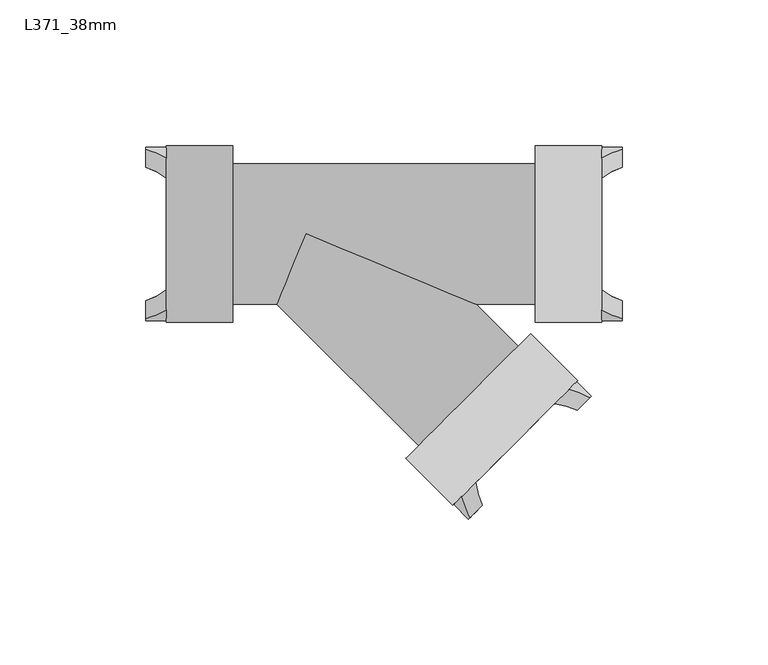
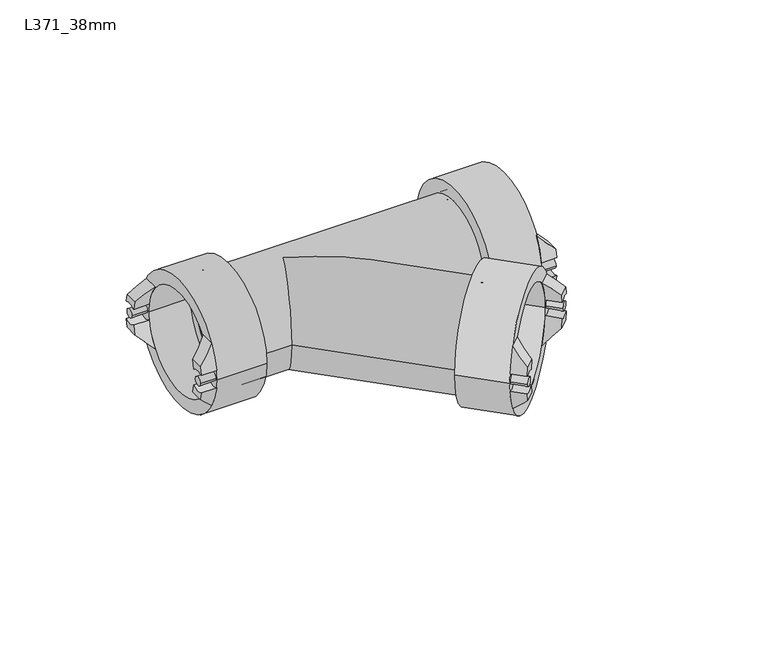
"""IFC4 building model written with IfcOpenShell, lengths in millimetres: pipe fitting geometry, Durapipe_PipeFitting_VulcatheneEnfusion_SingleWye_L37 : L371_38mm."""

from ifc_helpers import new_model, si_unit, point, frame, frame_2d, origin, place, context, project, spatial, polyline, circle_curve, ellipse_curve, trimmed, segment, composite_curve, outline, extrude, source, transform, mapped, element, save
from ifc_brep_helpers import plane_surface, cylinder_surface, revolved_surface, advanced_brep


def l371_38mm_ee0c1067(model_context):
    return source(origin(), model_context, "Body", "SolidModel", [
        advanced_brep(
        [(93.688139, -59.7540325, 5.8647205), (97.7893583, -55.6528132, 6.3008343), (97.2511418, -56.1910297, 9.9669854), (92.9606424, -60.4815291, 9.9669854), (90.1534052, -53.24785, 17.0269854), (92.7689002, -50.6323551, 6.3008343), (88.6676808, -54.7335744, 5.8647205), (85.2189485, -58.1823067, 17.0269854)],
        [
            (0, 1, circle_curve(frame((95.9543902, -57.4877813, 2.0269854), z_axis=(-0.7071067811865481, 0.7071067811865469, 0.0), x_axis=(-0.7071067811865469, -0.7071067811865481, 0.0)), 5.0)),
            (1, 2, circle_curve(frame((76.7210858, -76.7210858, 2.0269854), z_axis=(0.7071067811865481, -0.7071067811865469, 0.0), x_axis=(-0.7071067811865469, -0.7071067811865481, 0.0)), 30.1)),
            (2, 3),
            (3, 0, circle_curve(frame((76.7210858, -76.7210858, 2.0269854), z_axis=(-0.7071067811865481, 0.7071067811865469, 0.0), x_axis=(-0.7071067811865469, -0.7071067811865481, 0.0)), 24.3)),
            (4, 5, circle_curve(frame((71.7006276, -71.7006276, 2.0269854), z_axis=(-0.7071067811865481, 0.7071067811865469, 0.0), x_axis=(-0.7071067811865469, -0.7071067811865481, 0.0)), 30.1)),
            (5, 6, circle_curve(frame((90.9339321, -52.4673232, 2.0269854), z_axis=(0.7071067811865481, -0.7071067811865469, 0.0), x_axis=(-0.7071067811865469, -0.7071067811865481, 0.0)), 5.0)),
            (6, 7, circle_curve(frame((71.7006276, -71.7006276, 2.0269854), z_axis=(0.7071067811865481, -0.7071067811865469, 0.0), x_axis=(-0.7071067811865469, -0.7071067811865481, 0.0)), 24.3)),
            (7, 4),
            (6, 0),
            (3, 7, ellipse_curve(frame((82.3673234, -82.3673234, 2.0269854), z_axis=(0.4985855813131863, -0.4985855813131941, 0.7091014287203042), x_axis=(-0.5014104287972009, 0.5014104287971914, 0.7051064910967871)), 34.4628794, 24.3)),
            (4, 2, ellipse_curve(frame((82.3673234, -82.3673234, 2.0269854), z_axis=(-0.4985855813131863, 0.4985855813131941, -0.7091014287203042), x_axis=(0.5014104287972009, -0.5014104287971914, -0.7051064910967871)), 42.6885873, 30.1)),
            (1, 5),
        ],
        [
            plane_surface(frame((95.1738633, -58.2683082, 17.0269854), z_axis=(0.7071067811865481, -0.7071067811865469, 0.0), x_axis=(-0.7071067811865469, -0.7071067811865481, 0.0))),
            plane_surface(frame((90.1534052, -53.24785, 17.0269854), z_axis=(-0.7071067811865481, 0.7071067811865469, 0.0), x_axis=(0.7071067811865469, 0.7071067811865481, 0.0))),
            revolved_surface(polyline([(47.90458147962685, -82.26997104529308, 2.0269854), (82.464675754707, -116.83006532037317, 2.0269854)]), (71.7006276, -71.7006276, 2.0269854), (-0.7071067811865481, 0.7071067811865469, 0.0)),
            cylinder_surface(frame((71.7006276, -71.7006276, 2.0269854), z_axis=(0.7071067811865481, -0.7071067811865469, 0.0), x_axis=(-0.7071067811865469, -0.7071067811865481, 0.0)), 30.1),
            revolved_surface(polyline([(92.41885629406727, -61.02331520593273, 2.0269854), (87.39839814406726, -56.002857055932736, 2.0269854)]), (90.9339321, -52.4673232, 2.0269854), (0.7071067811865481, -0.7071067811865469, 0.0)),
            plane_surface(frame((50.4167135, -92.9845417, 17.0269854), z_axis=(0.4985855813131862, -0.49858558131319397, 0.7091014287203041), x_axis=(0.7071067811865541, 0.7071067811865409, 0.0))),
        ],
        [
            (0, [[1, 2, 3, 4]]),
            (1, [[5, 6, 7, 8]]),
            (2, [[-7, 9, -4, 10]]),
            (3, [[-5, 11, -2, 12]]),
            (4, [[-1, -9, -6, -12]]),
            (5, [[-3, -11, -8, -10]]),
        ],
    ),
        advanced_brep(
        [(97.7893583, -55.6528132, -2.2468634), (93.688139, -59.7540325, -1.8107497), (92.9606424, -60.4815291, -5.9130146), (97.2511418, -56.1910297, -5.9130146), (92.7689002, -50.6323551, -2.2468634), (90.1534052, -53.24785, -12.9730146), (85.2189485, -58.1823067, -12.9730146), (88.6676808, -54.7335744, -1.8107497)],
        [
            (0, 1, circle_curve(frame((95.9543902, -57.4877813, 2.0269854), z_axis=(-0.7071067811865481, 0.7071067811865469, 0.0), x_axis=(-0.7071067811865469, -0.7071067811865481, 0.0)), 5.0)),
            (1, 2, circle_curve(frame((76.7210858, -76.7210858, 2.0269854), z_axis=(-0.7071067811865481, 0.7071067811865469, 0.0), x_axis=(-0.7071067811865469, -0.7071067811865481, 0.0)), 24.3)),
            (2, 3),
            (3, 0, circle_curve(frame((76.7210858, -76.7210858, 2.0269854), z_axis=(0.7071067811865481, -0.7071067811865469, 0.0), x_axis=(-0.7071067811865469, -0.7071067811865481, 0.0)), 30.1)),
            (4, 5, circle_curve(frame((71.7006276, -71.7006276, 2.0269854), z_axis=(-0.7071067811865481, 0.7071067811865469, 0.0), x_axis=(-0.7071067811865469, -0.7071067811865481, 0.0)), 30.1)),
            (5, 6),
            (6, 7, circle_curve(frame((71.7006276, -71.7006276, 2.0269854), z_axis=(0.7071067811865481, -0.7071067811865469, 0.0), x_axis=(-0.7071067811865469, -0.7071067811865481, 0.0)), 24.3)),
            (7, 4, circle_curve(frame((90.9339321, -52.4673232, 2.0269854), z_axis=(0.7071067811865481, -0.7071067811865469, 0.0), x_axis=(-0.7071067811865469, -0.7071067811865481, 0.0)), 5.0)),
            (6, 2, ellipse_curve(frame((82.3673234, -82.3673234, 2.0269854), z_axis=(0.49858558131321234, -0.4985855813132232, -0.7091014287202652), x_axis=(-0.5014104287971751, 0.5014104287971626, -0.7051064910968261)), 34.4628794, 24.3)),
            (1, 7),
            (4, 0),
            (3, 5, ellipse_curve(frame((82.3673234, -82.3673234, 2.0269854), z_axis=(-0.49858558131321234, 0.4985855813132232, 0.7091014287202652), x_axis=(0.5014104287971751, -0.5014104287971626, 0.7051064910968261)), 42.6885873, 30.1)),
        ],
        [
            plane_surface(frame((95.1738633, -58.2683082, 17.0269854), z_axis=(0.7071067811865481, -0.7071067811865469, 0.0), x_axis=(-0.7071067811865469, -0.7071067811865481, 0.0))),
            plane_surface(frame((90.1534052, -53.24785, 17.0269854), z_axis=(-0.7071067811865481, 0.7071067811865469, 0.0), x_axis=(0.7071067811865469, 0.7071067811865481, 0.0))),
            revolved_surface(polyline([(47.904581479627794, -82.26997104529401, 2.0269854), (82.46467575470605, -116.83006532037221, 2.0269854)]), (71.7006276, -71.7006276, 2.0269854), (-0.7071067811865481, 0.7071067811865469, 0.0)),
            cylinder_surface(frame((71.7006276, -71.7006276, 2.0269854), z_axis=(0.7071067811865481, -0.7071067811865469, 0.0), x_axis=(-0.7071067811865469, -0.7071067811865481, 0.0)), 30.1),
            revolved_surface(polyline([(92.41885629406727, -61.02331520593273, 2.0269854), (87.39839814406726, -56.002857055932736, 2.0269854)]), (90.9339321, -52.4673232, 2.0269854), (0.7071067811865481, -0.7071067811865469, 0.0)),
            plane_surface(frame((55.4371716, -98.0049999, -5.9130146), z_axis=(0.49858558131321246, -0.49858558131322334, -0.7091014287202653), x_axis=(0.7071067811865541, 0.7071067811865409, 0.0))),
        ],
        [
            (0, [[1, 2, 3, 4]]),
            (1, [[5, 6, 7, 8]]),
            (2, [[-7, 9, -2, 10]]),
            (3, [[-5, 11, -4, 12]]),
            (4, [[-1, -11, -8, -10]]),
            (5, [[-3, -9, -6, -12]]),
        ],
    ),
        advanced_brep(
        [(55.6528132, -97.7893583, 6.3008343), (59.7540325, -93.688139, 5.8647205), (60.4815291, -92.9606424, 9.9669854), (56.1910297, -97.2511418, 9.9669854), (50.6323551, -92.7689002, 6.3008343), (53.24785, -90.1534052, 17.0269854), (58.1823067, -85.2189485, 17.0269854), (54.7335744, -88.6676808, 5.8647205)],
        [
            (0, 1, circle_curve(frame((57.4877813, -95.9543902, 2.0269854), z_axis=(-0.7071067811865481, 0.7071067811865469, 0.0), x_axis=(-0.7071067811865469, -0.7071067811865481, 0.0)), 5.0)),
            (1, 2, circle_curve(frame((76.7210858, -76.7210858, 2.0269854), z_axis=(-0.7071067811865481, 0.7071067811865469, 0.0), x_axis=(-0.7071067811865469, -0.7071067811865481, 0.0)), 24.3)),
            (2, 3),
            (3, 0, circle_curve(frame((76.7210858, -76.7210858, 2.0269854), z_axis=(0.7071067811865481, -0.7071067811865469, 0.0), x_axis=(-0.7071067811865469, -0.7071067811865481, 0.0)), 30.1)),
            (4, 5, circle_curve(frame((71.7006276, -71.7006276, 2.0269854), z_axis=(-0.7071067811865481, 0.7071067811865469, 0.0), x_axis=(-0.7071067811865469, -0.7071067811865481, 0.0)), 30.1)),
            (5, 6),
            (6, 7, circle_curve(frame((71.7006276, -71.7006276, 2.0269854), z_axis=(0.7071067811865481, -0.7071067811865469, 0.0), x_axis=(-0.7071067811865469, -0.7071067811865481, 0.0)), 24.3)),
            (7, 4, circle_curve(frame((52.4673232, -90.9339321, 2.0269854), z_axis=(0.7071067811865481, -0.7071067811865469, 0.0), x_axis=(-0.7071067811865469, -0.7071067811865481, 0.0)), 5.0)),
            (6, 2, ellipse_curve(frame((82.3673234, -82.3673234, 2.0269854), z_axis=(0.4985855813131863, -0.4985855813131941, 0.7091014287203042), x_axis=(-0.5014104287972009, 0.5014104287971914, 0.7051064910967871)), 34.4628794, 24.3)),
            (1, 7),
            (4, 0),
            (3, 5, ellipse_curve(frame((82.3673234, -82.3673234, 2.0269854), z_axis=(-0.4985855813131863, 0.4985855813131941, -0.7091014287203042), x_axis=(0.5014104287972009, -0.5014104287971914, -0.7051064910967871)), 42.6885873, 30.1)),
        ],
        [
            plane_surface(frame((95.1738633, -58.2683082, 17.0269854), z_axis=(0.7071067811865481, -0.7071067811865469, 0.0), x_axis=(-0.7071067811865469, -0.7071067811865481, 0.0))),
            plane_surface(frame((90.1534052, -53.24785, 17.0269854), z_axis=(-0.7071067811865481, 0.7071067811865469, 0.0), x_axis=(0.7071067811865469, 0.7071067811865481, 0.0))),
            revolved_surface(polyline([(47.90458147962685, -82.26997104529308, 2.0269854), (82.464675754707, -116.83006532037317, 2.0269854)]), (71.7006276, -71.7006276, 2.0269854), (-0.7071067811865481, 0.7071067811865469, 0.0)),
            cylinder_surface(frame((71.7006276, -71.7006276, 2.0269854), z_axis=(0.7071067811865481, -0.7071067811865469, 0.0), x_axis=(-0.7071067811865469, -0.7071067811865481, 0.0)), 30.1),
            revolved_surface(polyline([(53.95224739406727, -99.48992410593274, 2.0269854), (48.93178924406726, -94.46946595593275, 2.0269854)]), (52.4673232, -90.9339321, 2.0269854), (0.7071067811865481, -0.7071067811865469, 0.0)),
            plane_surface(frame((50.4167135, -92.9845417, 17.0269854), z_axis=(0.4985855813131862, -0.49858558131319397, 0.7091014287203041), x_axis=(0.7071067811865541, 0.7071067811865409, 0.0))),
        ],
        [
            (0, [[1, 2, 3, 4]]),
            (1, [[5, 6, 7, 8]]),
            (2, [[-7, 9, -2, 10]]),
            (3, [[-5, 11, -4, 12]]),
            (4, [[-1, -11, -8, -10]]),
            (5, [[-3, -9, -6, -12]]),
        ],
    ),
        advanced_brep(
        [(59.7540325, -93.688139, -1.8107497), (55.6528132, -97.7893583, -2.2468634), (56.1910297, -97.2511418, -5.9130146), (60.4815291, -92.9606424, -5.9130146), (53.24785, -90.1534052, -12.9730146), (50.6323551, -92.7689002, -2.2468634), (54.7335744, -88.6676808, -1.8107497), (58.1823067, -85.2189485, -12.9730146)],
        [
            (0, 1, circle_curve(frame((57.4877813, -95.9543902, 2.0269854), z_axis=(-0.7071067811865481, 0.7071067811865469, 0.0), x_axis=(-0.7071067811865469, -0.7071067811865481, 0.0)), 5.0)),
            (1, 2, circle_curve(frame((76.7210858, -76.7210858, 2.0269854), z_axis=(0.7071067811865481, -0.7071067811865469, 0.0), x_axis=(-0.7071067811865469, -0.7071067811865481, 0.0)), 30.1)),
            (2, 3),
            (3, 0, circle_curve(frame((76.7210858, -76.7210858, 2.0269854), z_axis=(-0.7071067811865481, 0.7071067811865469, 0.0), x_axis=(-0.7071067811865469, -0.7071067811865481, 0.0)), 24.3)),
            (4, 5, circle_curve(frame((71.7006276, -71.7006276, 2.0269854), z_axis=(-0.7071067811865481, 0.7071067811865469, 0.0), x_axis=(-0.7071067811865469, -0.7071067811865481, 0.0)), 30.1)),
            (5, 6, circle_curve(frame((52.4673232, -90.9339321, 2.0269854), z_axis=(0.7071067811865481, -0.7071067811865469, 0.0), x_axis=(-0.7071067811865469, -0.7071067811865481, 0.0)), 5.0)),
            (6, 7, circle_curve(frame((71.7006276, -71.7006276, 2.0269854), z_axis=(0.7071067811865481, -0.7071067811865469, 0.0), x_axis=(-0.7071067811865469, -0.7071067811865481, 0.0)), 24.3)),
            (7, 4),
            (6, 0),
            (3, 7, ellipse_curve(frame((82.3673234, -82.3673234, 2.0269854), z_axis=(0.49858558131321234, -0.4985855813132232, -0.7091014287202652), x_axis=(-0.5014104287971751, 0.5014104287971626, -0.7051064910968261)), 34.4628794, 24.3)),
            (4, 2, ellipse_curve(frame((82.3673234, -82.3673234, 2.0269854), z_axis=(-0.49858558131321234, 0.4985855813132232, 0.7091014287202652), x_axis=(0.5014104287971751, -0.5014104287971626, 0.7051064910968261)), 42.6885873, 30.1)),
            (1, 5),
        ],
        [
            plane_surface(frame((95.1738633, -58.2683082, 17.0269854), z_axis=(0.7071067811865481, -0.7071067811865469, 0.0), x_axis=(-0.7071067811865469, -0.7071067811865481, 0.0))),
            plane_surface(frame((90.1534052, -53.24785, 17.0269854), z_axis=(-0.7071067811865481, 0.7071067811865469, 0.0), x_axis=(0.7071067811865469, 0.7071067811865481, 0.0))),
            revolved_surface(polyline([(47.904581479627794, -82.26997104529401, 2.0269854), (82.46467575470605, -116.83006532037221, 2.0269854)]), (71.7006276, -71.7006276, 2.0269854), (-0.7071067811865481, 0.7071067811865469, 0.0)),
            cylinder_surface(frame((71.7006276, -71.7006276, 2.0269854), z_axis=(0.7071067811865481, -0.7071067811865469, 0.0), x_axis=(-0.7071067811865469, -0.7071067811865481, 0.0)), 30.1),
            revolved_surface(polyline([(53.95224739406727, -99.48992410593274, 2.0269854), (48.93178924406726, -94.46946595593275, 2.0269854)]), (52.4673232, -90.9339321, 2.0269854), (0.7071067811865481, -0.7071067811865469, 0.0)),
            plane_surface(frame((55.4371716, -98.0049999, -5.9130146), z_axis=(0.49858558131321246, -0.49858558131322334, -0.7091014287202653), x_axis=(0.7071067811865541, 0.7071067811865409, 0.0))),
        ],
        [
            (0, [[1, 2, 3, 4]]),
            (1, [[5, 6, 7, 8]]),
            (2, [[-7, 9, -4, 10]]),
            (3, [[-5, 11, -2, 12]]),
            (4, [[-1, -9, -6, -12]]),
            (5, [[-3, -11, -8, -10]]),
        ],
    ),
        extrude(outline(composite_curve([segment(trimmed(circle_curve(frame_2d((0.0, -2.0000001)), 2.0), [point((0.0, -4.0000001))], [point((0.0, 0.0))], False, "CARTESIAN"), True, "CONTINUOUS"), segment(trimmed(circle_curve(frame_2d((0.0, -2.0000001)), 2.0), [point((0.0, 0.0))], [point((0.0, -4.0000001))], False, "CARTESIAN"), True, "CONTINUOUS")], self_intersect=False)), frame((94.5401766, -58.9019949, 2.0269854), z_axis=(-0.7071067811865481, 0.7071067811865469, 0.0), x_axis=(0.0, 0.0, -1.0)), (0.0, 0.0, 1.0), 7.1),
        extrude(outline(composite_curve([segment(trimmed(circle_curve(frame_2d((0.0, 52.4)), 2.0), [point((0.0, 50.3999999))], [point((0.0, 54.4))], False, "CARTESIAN"), True, "CONTINUOUS"), segment(trimmed(circle_curve(frame_2d((0.0, 52.4)), 2.0), [point((0.0, 54.4))], [point((0.0, 50.3999999))], False, "CARTESIAN"), True, "CONTINUOUS")], self_intersect=False)), frame((94.5401766, -58.9019949, 2.0269854), z_axis=(-0.7071067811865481, 0.7071067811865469, 0.0), x_axis=(0.0, 0.0, -1.0)), (0.0, 0.0, 1.0), 7.1),
        advanced_brep(
        [(72.4784451, -43.9113311, 2.0269854), (43.9113311, -72.4784451, 2.0269854), (41.1182593, -75.2715169, 2.0269854), (75.2715169, -41.1182593, 2.0269854), (69.86215, -41.295036, 2.0269854), (41.295036, -69.86215, 2.0269854), (76.9685731, -34.1886129, 2.0269854), (34.1886129, -76.9685731, 2.0269854), (93.0906077, -50.3106475, 2.0269854), (50.3106475, -93.0906077, 2.0269854), (88.7772564, -54.6239988, 2.0269854), (54.6239988, -88.7772564, 2.0269854)],
        [
            (0, 1, circle_curve(frame((58.1948881, -58.1948881, 2.0269854), z_axis=(-0.7071067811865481, 0.7071067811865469, 0.0), x_axis=(-0.7071067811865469, -0.7071067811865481, 0.0)), 20.2)),
            (1, 2),
            (2, 3, circle_curve(frame((58.1948881, -58.1948881, 2.0269854), z_axis=(0.7071067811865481, -0.7071067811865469, 0.0), x_axis=(-0.7071067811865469, -0.7071067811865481, 0.0)), 24.15)),
            (3, 0),
            (1, 0, circle_curve(frame((58.1948881, -58.1948881, 2.0269854), z_axis=(-0.7071067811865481, 0.7071067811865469, 0.0), x_axis=(-0.7071067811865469, -0.7071067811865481, 0.0)), 20.2)),
            (3, 2, circle_curve(frame((58.1948881, -58.1948881, 2.0269854), z_axis=(0.7071067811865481, -0.7071067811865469, 0.0), x_axis=(-0.7071067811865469, -0.7071067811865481, 0.0)), 24.15)),
            (4, 5, circle_curve(frame((55.578593, -55.578593, 2.0269854), z_axis=(-0.7071067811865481, 0.7071067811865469, 0.0), x_axis=(-0.7071067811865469, -0.7071067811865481, 0.0)), 20.2)),
            (5, 1),
            (0, 4),
            (5, 4, circle_curve(frame((55.578593, -55.578593, 2.0269854), z_axis=(-0.7071067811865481, 0.7071067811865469, 0.0), x_axis=(-0.7071067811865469, -0.7071067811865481, 0.0)), 20.2)),
            (6, 7, circle_curve(frame((55.578593, -55.578593, 2.0269854), z_axis=(-0.7071067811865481, 0.7071067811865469, 0.0), x_axis=(-0.7071067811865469, -0.7071067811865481, 0.0)), 30.25)),
            (7, 5),
            (4, 6),
            (7, 6, circle_curve(frame((55.578593, -55.578593, 2.0269854), z_axis=(-0.7071067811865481, 0.7071067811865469, 0.0), x_axis=(-0.7071067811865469, -0.7071067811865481, 0.0)), 30.25)),
            (8, 9, circle_curve(frame((71.7006276, -71.7006276, 2.0269854), z_axis=(-0.7071067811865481, 0.7071067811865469, 0.0), x_axis=(-0.7071067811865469, -0.7071067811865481, 0.0)), 30.25)),
            (9, 7),
            (6, 8),
            (9, 8, circle_curve(frame((71.7006276, -71.7006276, 2.0269854), z_axis=(-0.7071067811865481, 0.7071067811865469, 0.0), x_axis=(-0.7071067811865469, -0.7071067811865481, 0.0)), 30.25)),
            (10, 11, circle_curve(frame((71.7006276, -71.7006276, 2.0269854), z_axis=(-0.7071067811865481, 0.7071067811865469, 0.0), x_axis=(-0.7071067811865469, -0.7071067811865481, 0.0)), 24.15)),
            (11, 9),
            (8, 10),
            (11, 10, circle_curve(frame((71.7006276, -71.7006276, 2.0269854), z_axis=(-0.7071067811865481, 0.7071067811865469, 0.0), x_axis=(-0.7071067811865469, -0.7071067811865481, 0.0)), 24.15)),
            (2, 11),
            (10, 3),
        ],
        [
            plane_surface(frame((58.1948881, -58.1948881, 2.0269854), z_axis=(0.7071067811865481, -0.7071067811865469, 0.0), x_axis=(-0.7071067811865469, -0.7071067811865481, 0.0))),
            revolved_surface(polyline([(43.911331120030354, -72.47844507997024, 2.0269854), (41.29503602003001, -69.8621499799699, 2.0269854)]), (1849.3547889, -1849.3547889, 2.0269854), (0.7071067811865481, -0.7071067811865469, 0.0)),
            plane_surface(frame((55.578593, -55.578593, 2.0269854), z_axis=(-0.7071067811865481, 0.7071067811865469, 0.0), x_axis=(-0.7071067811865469, -0.7071067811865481, 0.0))),
            cylinder_surface(frame((1849.3547889, -1849.3547889, 2.0269854), z_axis=(0.7071067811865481, -0.7071067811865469, 0.0), x_axis=(-0.7071067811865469, -0.7071067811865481, 0.0)), 30.25),
            plane_surface(frame((71.7006276, -71.7006276, 2.0269854), z_axis=(0.7071067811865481, -0.7071067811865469, 0.0), x_axis=(-0.7071067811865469, -0.7071067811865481, 0.0))),
            revolved_surface(polyline([(54.62399883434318, -88.77725636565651, 2.0269854), (41.11825933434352, -75.27151686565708, 2.0269854)]), (1849.3547889, -1849.3547889, 2.0269854), (0.7071067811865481, -0.7071067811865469, 0.0)),
        ],
        [
            (0, [[1, 2, 3, 4]]),
            (0, [[5, -4, 6, -2]]),
            (1, [[7, 8, -1, 9]]),
            (1, [[10, -9, -5, -8]]),
            (2, [[11, 12, -7, 13]]),
            (2, [[14, -13, -10, -12]]),
            (3, [[15, 16, -11, 17]]),
            (3, [[18, -17, -14, -16]]),
            (4, [[19, 20, -15, 21]]),
            (4, [[22, -21, -18, -20]]),
            (5, [[-3, 23, -19, 24]]),
            (5, [[-6, -24, -22, -23]]),
        ],
    ),
        advanced_brep(
        [(-55.0, -23.9950368, 3.8377351), (-55.0, -29.7950368, 4.2738489), (-55.0, -29.0338837, 7.94), (-55.0, -22.9662013, 7.94), (-47.9, -26.0961683, 15.0), (-47.9, -29.7950368, 4.2738489), (-47.9, -23.9950368, 3.8377351), (-47.9, -19.1177928, 15.0)],
        [
            (0, 1, circle_curve(frame((-55.0, -27.2, 0.0), z_axis=(1.0, 0.0, 0.0), x_axis=(0.0, 1.0, 0.0)), 5.0)),
            (1, 2, circle_curve(frame((-55.0, 0.0, 0.0), z_axis=(-1.0, 0.0, 0.0), x_axis=(0.0, 1.0, 0.0)), 30.1)),
            (2, 3),
            (3, 0, circle_curve(frame((-55.0, 0.0, 0.0), z_axis=(1.0, 0.0, 0.0), x_axis=(0.0, 1.0, 0.0)), 24.3)),
            (4, 5, circle_curve(frame((-47.9, 0.0, 0.0), z_axis=(1.0, 0.0, 0.0), x_axis=(0.0, 1.0, 0.0)), 30.1)),
            (5, 6, circle_curve(frame((-47.9, -27.2, 0.0), z_axis=(-1.0, 0.0, 0.0), x_axis=(0.0, 1.0, 0.0)), 5.0)),
            (6, 7, circle_curve(frame((-47.9, 0.0, 0.0), z_axis=(-1.0, 0.0, 0.0), x_axis=(0.0, 1.0, 0.0)), 24.3)),
            (7, 4),
            (6, 0),
            (3, 7, ellipse_curve(frame((-62.9849858, 0.0, 0.0), z_axis=(-0.705106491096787, 0.0, 0.7091014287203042), x_axis=(0.7091014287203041, 0.0, 0.705106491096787)), 34.4628794, 24.3)),
            (4, 2, ellipse_curve(frame((-62.9849858, 0.0, 0.0), z_axis=(0.705106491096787, 0.0, -0.7091014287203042), x_axis=(-0.7091014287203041, 0.0, -0.705106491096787)), 42.6885873, 30.1)),
            (1, 5),
        ],
        [
            plane_surface(frame((-55.0, -26.0961683, 15.0), z_axis=(-1.0, 0.0, 0.0), x_axis=(0.0, 1.0, 0.0))),
            plane_surface(frame((-47.9, -26.0961683, 15.0), z_axis=(1.0, 0.0, 0.0), x_axis=(0.0, -1.0, 0.0))),
            revolved_surface(polyline([(-38.54730877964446, 24.3, 0.0), (-87.42266282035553, 24.3, 0.0)]), (-47.9, 0.0, 0.0), (1.0, 0.0, 0.0)),
            cylinder_surface(frame((-47.9, 0.0, 0.0), z_axis=(-1.0, 0.0, 0.0), x_axis=(0.0, 1.0, 0.0)), 30.1),
            revolved_surface(polyline([(-55.0, -22.2, 0.0), (-47.9, -22.2, 0.0)]), (-47.9, -27.2, 0.0), (-1.0, 0.0, 0.0)),
            plane_surface(frame((-47.9, 30.1, 15.0), z_axis=(-0.705106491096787, 0.0, 0.7091014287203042), x_axis=(0.0, -1.0, 0.0))),
        ],
        [
            (0, [[1, 2, 3, 4]]),
            (1, [[5, 6, 7, 8]]),
            (2, [[-7, 9, -4, 10]]),
            (3, [[-5, 11, -2, 12]]),
            (4, [[-1, -9, -6, -12]]),
            (5, [[-3, -11, -8, -10]]),
        ],
    ),
        advanced_brep(
        [(-55.0, -29.7950368, -4.2738489), (-55.0, -23.9950368, -3.8377351), (-55.0, -22.9662013, -7.94), (-55.0, -29.0338837, -7.94), (-47.9, -29.7950368, -4.2738489), (-47.9, -26.0961683, -15.0), (-47.9, -19.1177928, -15.0), (-47.9, -23.9950368, -3.8377351)],
        [
            (0, 1, circle_curve(frame((-55.0, -27.2, 0.0), z_axis=(1.0, 0.0, 0.0), x_axis=(0.0, 1.0, 0.0)), 5.0)),
            (1, 2, circle_curve(frame((-55.0, 0.0, 0.0), z_axis=(1.0, 0.0, 0.0), x_axis=(0.0, 1.0, 0.0)), 24.3)),
            (2, 3),
            (3, 0, circle_curve(frame((-55.0, 0.0, 0.0), z_axis=(-1.0, 0.0, 0.0), x_axis=(0.0, 1.0, 0.0)), 30.1)),
            (4, 5, circle_curve(frame((-47.9, 0.0, 0.0), z_axis=(1.0, 0.0, 0.0), x_axis=(0.0, 1.0, 0.0)), 30.1)),
            (5, 6),
            (6, 7, circle_curve(frame((-47.9, 0.0, 0.0), z_axis=(-1.0, 0.0, 0.0), x_axis=(0.0, 1.0, 0.0)), 24.3)),
            (7, 4, circle_curve(frame((-47.9, -27.2, 0.0), z_axis=(-1.0, 0.0, 0.0), x_axis=(0.0, 1.0, 0.0)), 5.0)),
            (6, 2, ellipse_curve(frame((-62.9849858, 0.0, 0.0), z_axis=(-0.7051064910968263, 0.0, -0.7091014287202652), x_axis=(0.7091014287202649, 0.0, -0.7051064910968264)), 34.4628794, 24.3)),
            (1, 7),
            (4, 0),
            (3, 5, ellipse_curve(frame((-62.9849858, 0.0, 0.0), z_axis=(0.7051064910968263, 0.0, 0.7091014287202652), x_axis=(-0.7091014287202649, 0.0, 0.7051064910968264)), 42.6885873, 30.1)),
        ],
        [
            plane_surface(frame((-55.0, -26.0961683, 15.0), z_axis=(-1.0, 0.0, 0.0), x_axis=(0.0, 1.0, 0.0))),
            plane_surface(frame((-47.9, -26.0961683, 15.0), z_axis=(1.0, 0.0, 0.0), x_axis=(0.0, -1.0, 0.0))),
            revolved_surface(polyline([(-38.54730877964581, 24.3, 0.0), (-87.42266282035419, 24.3, 0.0)]), (-47.9, 0.0, 0.0), (1.0, 0.0, 0.0)),
            cylinder_surface(frame((-47.9, 0.0, 0.0), z_axis=(-1.0, 0.0, 0.0), x_axis=(0.0, 1.0, 0.0)), 30.1),
            revolved_surface(polyline([(-55.0, -22.2, 0.0), (-47.9, -22.2, 0.0)]), (-47.9, -27.2, 0.0), (-1.0, 0.0, 0.0)),
            plane_surface(frame((-55.0, 30.1, -7.94), z_axis=(-0.7051064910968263, 0.0, -0.7091014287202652), x_axis=(0.0, -1.0, 0.0))),
        ],
        [
            (0, [[1, 2, 3, 4]]),
            (1, [[5, 6, 7, 8]]),
            (2, [[-7, 9, -2, 10]]),
            (3, [[-5, 11, -4, 12]]),
            (4, [[-1, -11, -8, -10]]),
            (5, [[-3, -9, -6, -12]]),
        ],
    ),
        advanced_brep(
        [(-55.0, 29.7950368, 4.2738489), (-55.0, 23.9950368, 3.8377351), (-55.0, 22.9662013, 7.94), (-55.0, 29.0338837, 7.94), (-47.9, 29.7950368, 4.2738489), (-47.9, 26.0961683, 15.0), (-47.9, 19.1177928, 15.0), (-47.9, 23.9950368, 3.8377351)],
        [
            (0, 1, circle_curve(frame((-55.0, 27.2, 0.0), z_axis=(1.0, 0.0, 0.0), x_axis=(0.0, 1.0, 0.0)), 5.0)),
            (1, 2, circle_curve(frame((-55.0, 0.0, 0.0), z_axis=(1.0, 0.0, 0.0), x_axis=(0.0, 1.0, 0.0)), 24.3)),
            (2, 3),
            (3, 0, circle_curve(frame((-55.0, 0.0, 0.0), z_axis=(-1.0, 0.0, 0.0), x_axis=(0.0, 1.0, 0.0)), 30.1)),
            (4, 5, circle_curve(frame((-47.9, 0.0, 0.0), z_axis=(1.0, 0.0, 0.0), x_axis=(0.0, 1.0, 0.0)), 30.1)),
            (5, 6),
            (6, 7, circle_curve(frame((-47.9, 0.0, 0.0), z_axis=(-1.0, 0.0, 0.0), x_axis=(0.0, 1.0, 0.0)), 24.3)),
            (7, 4, circle_curve(frame((-47.9, 27.2, 0.0), z_axis=(-1.0, 0.0, 0.0), x_axis=(0.0, 1.0, 0.0)), 5.0)),
            (6, 2, ellipse_curve(frame((-62.9849858, 0.0, 0.0), z_axis=(-0.705106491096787, 0.0, 0.7091014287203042), x_axis=(0.7091014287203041, 0.0, 0.705106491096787)), 34.4628794, 24.3)),
            (1, 7),
            (4, 0),
            (3, 5, ellipse_curve(frame((-62.9849858, 0.0, 0.0), z_axis=(0.705106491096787, 0.0, -0.7091014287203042), x_axis=(-0.7091014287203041, 0.0, -0.705106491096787)), 42.6885873, 30.1)),
        ],
        [
            plane_surface(frame((-55.0, -26.0961683, 15.0), z_axis=(-1.0, 0.0, 0.0), x_axis=(0.0, 1.0, 0.0))),
            plane_surface(frame((-47.9, -26.0961683, 15.0), z_axis=(1.0, 0.0, 0.0), x_axis=(0.0, -1.0, 0.0))),
            revolved_surface(polyline([(-38.54730877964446, 24.3, 0.0), (-87.42266282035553, 24.3, 0.0)]), (-47.9, 0.0, 0.0), (1.0, 0.0, 0.0)),
            cylinder_surface(frame((-47.9, 0.0, 0.0), z_axis=(-1.0, 0.0, 0.0), x_axis=(0.0, 1.0, 0.0)), 30.1),
            revolved_surface(polyline([(-55.0, 32.2, 0.0), (-47.9, 32.2, 0.0)]), (-47.9, 27.2, 0.0), (-1.0, 0.0, 0.0)),
            plane_surface(frame((-47.9, 30.1, 15.0), z_axis=(-0.705106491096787, 0.0, 0.7091014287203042), x_axis=(0.0, -1.0, 0.0))),
        ],
        [
            (0, [[1, 2, 3, 4]]),
            (1, [[5, 6, 7, 8]]),
            (2, [[-7, 9, -2, 10]]),
            (3, [[-5, 11, -4, 12]]),
            (4, [[-1, -11, -8, -10]]),
            (5, [[-3, -9, -6, -12]]),
        ],
    ),
        advanced_brep(
        [(-55.0, 23.9950368, -3.8377351), (-55.0, 29.7950368, -4.2738489), (-55.0, 29.0338837, -7.94), (-55.0, 22.9662013, -7.94), (-47.9, 26.0961683, -15.0), (-47.9, 29.7950368, -4.2738489), (-47.9, 23.9950368, -3.8377351), (-47.9, 19.1177928, -15.0)],
        [
            (0, 1, circle_curve(frame((-55.0, 27.2, 0.0), z_axis=(1.0, 0.0, 0.0), x_axis=(0.0, 1.0, 0.0)), 5.0)),
            (1, 2, circle_curve(frame((-55.0, 0.0, 0.0), z_axis=(-1.0, 0.0, 0.0), x_axis=(0.0, 1.0, 0.0)), 30.1)),
            (2, 3),
            (3, 0, circle_curve(frame((-55.0, 0.0, 0.0), z_axis=(1.0, 0.0, 0.0), x_axis=(0.0, 1.0, 0.0)), 24.3)),
            (4, 5, circle_curve(frame((-47.9, 0.0, 0.0), z_axis=(1.0, 0.0, 0.0), x_axis=(0.0, 1.0, 0.0)), 30.1)),
            (5, 6, circle_curve(frame((-47.9, 27.2, 0.0), z_axis=(-1.0, 0.0, 0.0), x_axis=(0.0, 1.0, 0.0)), 5.0)),
            (6, 7, circle_curve(frame((-47.9, 0.0, 0.0), z_axis=(-1.0, 0.0, 0.0), x_axis=(0.0, 1.0, 0.0)), 24.3)),
            (7, 4),
            (6, 0),
            (3, 7, ellipse_curve(frame((-62.9849858, 0.0, 0.0), z_axis=(-0.7051064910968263, 0.0, -0.7091014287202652), x_axis=(0.7091014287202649, 0.0, -0.7051064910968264)), 34.4628794, 24.3)),
            (4, 2, ellipse_curve(frame((-62.9849858, 0.0, 0.0), z_axis=(0.7051064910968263, 0.0, 0.7091014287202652), x_axis=(-0.7091014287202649, 0.0, 0.7051064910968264)), 42.6885873, 30.1)),
            (1, 5),
        ],
        [
            plane_surface(frame((-55.0, -26.0961683, 15.0), z_axis=(-1.0, 0.0, 0.0), x_axis=(0.0, 1.0, 0.0))),
            plane_surface(frame((-47.9, -26.0961683, 15.0), z_axis=(1.0, 0.0, 0.0), x_axis=(0.0, -1.0, 0.0))),
            revolved_surface(polyline([(-38.54730877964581, 24.3, 0.0), (-87.42266282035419, 24.3, 0.0)]), (-47.9, 0.0, 0.0), (1.0, 0.0, 0.0)),
            cylinder_surface(frame((-47.9, 0.0, 0.0), z_axis=(-1.0, 0.0, 0.0), x_axis=(0.0, 1.0, 0.0)), 30.1),
            revolved_surface(polyline([(-55.0, 32.2, 0.0), (-47.9, 32.2, 0.0)]), (-47.9, 27.2, 0.0), (-1.0, 0.0, 0.0)),
            plane_surface(frame((-55.0, 30.1, -7.94), z_axis=(-0.7051064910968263, 0.0, -0.7091014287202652), x_axis=(0.0, -1.0, 0.0))),
        ],
        [
            (0, [[1, 2, 3, 4]]),
            (1, [[5, 6, 7, 8]]),
            (2, [[-7, 9, -4, 10]]),
            (3, [[-5, 11, -2, 12]]),
            (4, [[-1, -9, -6, -12]]),
            (5, [[-3, -11, -8, -10]]),
        ],
    ),
        extrude(outline(composite_curve([segment(trimmed(circle_curve(frame_2d((-27.2, 0.0)), 2.0), [point((-29.2, 0.0))], [point((-25.2, 0.0))], False, "CARTESIAN"), True, "CONTINUOUS"), segment(trimmed(circle_curve(frame_2d((-27.2, 0.0)), 2.0), [point((-25.2, 0.0))], [point((-29.2, 0.0))], False, "CARTESIAN"), True, "CONTINUOUS")], self_intersect=False)), frame((-55.0, 0.0, 0.0), z_axis=(1.0, 0.0, 0.0), x_axis=(0.0, 1.0, 0.0)), (0.0, 0.0, 1.0), 7.1),
        extrude(outline(composite_curve([segment(trimmed(circle_curve(frame_2d((27.2, 0.0)), 2.0), [point((25.2, 0.0))], [point((29.2, 0.0))], False, "CARTESIAN"), True, "CONTINUOUS"), segment(trimmed(circle_curve(frame_2d((27.2, 0.0)), 2.0), [point((29.2, 0.0))], [point((25.2, 0.0))], False, "CARTESIAN"), True, "CONTINUOUS")], self_intersect=False)), frame((-55.0, 0.0, 0.0), z_axis=(1.0, 0.0, 0.0), x_axis=(0.0, 1.0, 0.0)), (0.0, 0.0, 1.0), 7.1),
        advanced_brep(
        [(-28.8, -20.2, 0.0), (-28.8, 20.2, 0.0), (-28.8, 24.15, 0.0), (-28.8, -24.15, 0.0), (-25.1, -20.2, 0.0), (-25.1, 20.2, 0.0), (-25.1, -30.25, 0.0), (-25.1, 30.25, 0.0), (-47.9, -30.25, 0.0), (-47.9, 30.25, 0.0), (-47.9, -24.15, 0.0), (-47.9, 24.15, 0.0)],
        [
            (0, 1, circle_curve(frame((-28.8, 0.0, 0.0), z_axis=(1.0, 0.0, 0.0), x_axis=(0.0, 1.0, 0.0)), 20.2)),
            (1, 2),
            (2, 3, circle_curve(frame((-28.8, 0.0, 0.0), z_axis=(-1.0, 0.0, 0.0), x_axis=(0.0, 1.0, 0.0)), 24.15)),
            (3, 0),
            (1, 0, circle_curve(frame((-28.8, 0.0, 0.0), z_axis=(1.0, 0.0, 0.0), x_axis=(0.0, 1.0, 0.0)), 20.2)),
            (3, 2, circle_curve(frame((-28.8, 0.0, 0.0), z_axis=(-1.0, 0.0, 0.0), x_axis=(0.0, 1.0, 0.0)), 24.15)),
            (4, 5, circle_curve(frame((-25.1, 0.0, 0.0), z_axis=(1.0, 0.0, 0.0), x_axis=(0.0, 1.0, 0.0)), 20.2)),
            (5, 1),
            (0, 4),
            (5, 4, circle_curve(frame((-25.1, 0.0, 0.0), z_axis=(1.0, 0.0, 0.0), x_axis=(0.0, 1.0, 0.0)), 20.2)),
            (6, 7, circle_curve(frame((-25.1, 0.0, 0.0), z_axis=(1.0, 0.0, 0.0), x_axis=(0.0, 1.0, 0.0)), 30.25)),
            (7, 5),
            (4, 6),
            (7, 6, circle_curve(frame((-25.1, 0.0, 0.0), z_axis=(1.0, 0.0, 0.0), x_axis=(0.0, 1.0, 0.0)), 30.25)),
            (8, 9, circle_curve(frame((-47.9, 0.0, 0.0), z_axis=(1.0, 0.0, 0.0), x_axis=(0.0, 1.0, 0.0)), 30.25)),
            (9, 7),
            (6, 8),
            (9, 8, circle_curve(frame((-47.9, 0.0, 0.0), z_axis=(1.0, 0.0, 0.0), x_axis=(0.0, 1.0, 0.0)), 30.25)),
            (10, 11, circle_curve(frame((-47.9, 0.0, 0.0), z_axis=(1.0, 0.0, 0.0), x_axis=(0.0, 1.0, 0.0)), 24.15)),
            (11, 9),
            (8, 10),
            (11, 10, circle_curve(frame((-47.9, 0.0, 0.0), z_axis=(1.0, 0.0, 0.0), x_axis=(0.0, 1.0, 0.0)), 24.15)),
            (2, 11),
            (10, 3),
        ],
        [
            plane_surface(frame((-28.8, 0.0, 0.0), z_axis=(-1.0, 0.0, 0.0), x_axis=(0.0, 1.0, 0.0))),
            revolved_surface(polyline([(-28.800000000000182, 20.2, 0.0), (-25.09999999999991, 20.2, 0.0)]), (-2561.8826241, 0.0, 0.0), (-1.0, 0.0, 0.0)),
            plane_surface(frame((-25.1, 0.0, 0.0), z_axis=(1.0, 0.0, 0.0), x_axis=(0.0, 1.0, 0.0))),
            cylinder_surface(frame((-2561.8826241, 0.0, 0.0), z_axis=(-1.0, 0.0, 0.0), x_axis=(0.0, 1.0, 0.0)), 30.25),
            plane_surface(frame((-47.9, 0.0, 0.0), z_axis=(-1.0, 0.0, 0.0), x_axis=(0.0, 1.0, 0.0))),
            revolved_surface(polyline([(-47.90000000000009, 24.15, 0.0), (-28.800000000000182, 24.15, 0.0)]), (-2561.8826241, 0.0, 0.0), (-1.0, 0.0, 0.0)),
        ],
        [
            (0, [[1, 2, 3, 4]]),
            (0, [[5, -4, 6, -2]]),
            (1, [[7, 8, -1, 9]]),
            (1, [[10, -9, -5, -8]]),
            (2, [[11, 12, -7, 13]]),
            (2, [[14, -13, -10, -12]]),
            (3, [[15, 16, -11, 17]]),
            (3, [[18, -17, -14, -16]]),
            (4, [[19, 20, -15, 21]]),
            (4, [[22, -21, -18, -20]]),
            (5, [[-3, 23, -19, 24]]),
            (5, [[-6, -24, -22, -23]]),
        ],
    ),
        advanced_brep(
        [(108.4, -23.9950368, -3.8377351), (108.4, -29.7950368, -4.2738489), (108.4, -29.0338837, -7.94), (108.4, -22.9662013, -7.94), (101.3, -26.0961683, -15.0), (101.3, -29.7950368, -4.2738489), (101.3, -23.9950368, -3.8377351), (101.3, -19.1177928, -15.0)],
        [
            (0, 1, circle_curve(frame((108.4, -27.2, 0.0), z_axis=(-1.0, 0.0, 0.0), x_axis=(0.0, 1.0, 0.0)), 5.0)),
            (1, 2, circle_curve(frame((108.4, 0.0, 0.0), z_axis=(1.0, 0.0, 0.0), x_axis=(0.0, 1.0, 0.0)), 30.1)),
            (2, 3),
            (3, 0, circle_curve(frame((108.4, 0.0, 0.0), z_axis=(-1.0, 0.0, 0.0), x_axis=(0.0, 1.0, 0.0)), 24.3)),
            (4, 5, circle_curve(frame((101.3, 0.0, 0.0), z_axis=(-1.0, 0.0, 0.0), x_axis=(0.0, 1.0, 0.0)), 30.1)),
            (5, 6, circle_curve(frame((101.3, -27.2, 0.0), z_axis=(1.0, 0.0, 0.0), x_axis=(0.0, 1.0, 0.0)), 5.0)),
            (6, 7, circle_curve(frame((101.3, 0.0, 0.0), z_axis=(1.0, 0.0, 0.0), x_axis=(0.0, 1.0, 0.0)), 24.3)),
            (7, 4),
            (6, 0),
            (3, 7, ellipse_curve(frame((116.3849858, 0.0, 0.0), z_axis=(0.705106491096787, 0.0, -0.7091014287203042), x_axis=(-0.7091014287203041, 0.0, -0.705106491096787)), 34.4628794, 24.3)),
            (4, 2, ellipse_curve(frame((116.3849858, 0.0, 0.0), z_axis=(-0.705106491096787, 0.0, 0.7091014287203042), x_axis=(0.7091014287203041, 0.0, 0.705106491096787)), 42.6885873, 30.1)),
            (1, 5),
        ],
        [
            plane_surface(frame((108.4, -26.0961683, -15.0), z_axis=(1.0, 0.0, 0.0), x_axis=(0.0, 1.0, 0.0))),
            plane_surface(frame((101.3, -26.0961683, -15.0), z_axis=(-1.0, 0.0, 0.0), x_axis=(0.0, -1.0, 0.0))),
            revolved_surface(polyline([(91.94730877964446, 24.3, 0.0), (140.82266282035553, 24.3, 0.0)]), (101.3, 0.0, 0.0), (-1.0, 0.0, 0.0)),
            cylinder_surface(frame((101.3, 0.0, 0.0), z_axis=(1.0, 0.0, 0.0), x_axis=(0.0, 1.0, 0.0)), 30.1),
            revolved_surface(polyline([(108.4, -22.2, 0.0), (101.3, -22.2, 0.0)]), (101.3, -27.2, 0.0), (1.0, 0.0, 0.0)),
            plane_surface(frame((101.3, 30.1, -15.0), z_axis=(0.705106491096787, 0.0, -0.7091014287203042), x_axis=(0.0, -1.0, 0.0))),
        ],
        [
            (0, [[1, 2, 3, 4]]),
            (1, [[5, 6, 7, 8]]),
            (2, [[-7, 9, -4, 10]]),
            (3, [[-5, 11, -2, 12]]),
            (4, [[-1, -9, -6, -12]]),
            (5, [[-3, -11, -8, -10]]),
        ],
    ),
        advanced_brep(
        [(108.4, -29.7950368, 4.2738489), (108.4, -23.9950368, 3.8377351), (108.4, -22.9662013, 7.94), (108.4, -29.0338837, 7.94), (101.3, -29.7950368, 4.2738489), (101.3, -26.0961683, 15.0), (101.3, -19.1177928, 15.0), (101.3, -23.9950368, 3.8377351)],
        [
            (0, 1, circle_curve(frame((108.4, -27.2, 0.0), z_axis=(-1.0, 0.0, 0.0), x_axis=(0.0, 1.0, 0.0)), 5.0)),
            (1, 2, circle_curve(frame((108.4, 0.0, 0.0), z_axis=(-1.0, 0.0, 0.0), x_axis=(0.0, 1.0, 0.0)), 24.3)),
            (2, 3),
            (3, 0, circle_curve(frame((108.4, 0.0, 0.0), z_axis=(1.0, 0.0, 0.0), x_axis=(0.0, 1.0, 0.0)), 30.1)),
            (4, 5, circle_curve(frame((101.3, 0.0, 0.0), z_axis=(-1.0, 0.0, 0.0), x_axis=(0.0, 1.0, 0.0)), 30.1)),
            (5, 6),
            (6, 7, circle_curve(frame((101.3, 0.0, 0.0), z_axis=(1.0, 0.0, 0.0), x_axis=(0.0, 1.0, 0.0)), 24.3)),
            (7, 4, circle_curve(frame((101.3, -27.2, 0.0), z_axis=(1.0, 0.0, 0.0), x_axis=(0.0, 1.0, 0.0)), 5.0)),
            (6, 2, ellipse_curve(frame((116.3849858, 0.0, 0.0), z_axis=(0.7051064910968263, 0.0, 0.7091014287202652), x_axis=(-0.7091014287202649, 0.0, 0.7051064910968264)), 34.4628794, 24.3)),
            (1, 7),
            (4, 0),
            (3, 5, ellipse_curve(frame((116.3849858, 0.0, 0.0), z_axis=(-0.7051064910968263, 0.0, -0.7091014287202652), x_axis=(0.7091014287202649, 0.0, -0.7051064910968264)), 42.6885873, 30.1)),
        ],
        [
            plane_surface(frame((108.4, -26.0961683, -15.0), z_axis=(1.0, 0.0, 0.0), x_axis=(0.0, 1.0, 0.0))),
            plane_surface(frame((101.3, -26.0961683, -15.0), z_axis=(-1.0, 0.0, 0.0), x_axis=(0.0, -1.0, 0.0))),
            revolved_surface(polyline([(91.94730877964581, 24.3, 0.0), (140.8226628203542, 24.3, 0.0)]), (101.3, 0.0, 0.0), (-1.0, 0.0, 0.0)),
            cylinder_surface(frame((101.3, 0.0, 0.0), z_axis=(1.0, 0.0, 0.0), x_axis=(0.0, 1.0, 0.0)), 30.1),
            revolved_surface(polyline([(108.4, -22.2, 0.0), (101.3, -22.2, 0.0)]), (101.3, -27.2, 0.0), (1.0, 0.0, 0.0)),
            plane_surface(frame((108.4, 30.1, 7.94), z_axis=(0.7051064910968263, 0.0, 0.7091014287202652), x_axis=(0.0, -1.0, 0.0))),
        ],
        [
            (0, [[1, 2, 3, 4]]),
            (1, [[5, 6, 7, 8]]),
            (2, [[-7, 9, -2, 10]]),
            (3, [[-5, 11, -4, 12]]),
            (4, [[-1, -11, -8, -10]]),
            (5, [[-3, -9, -6, -12]]),
        ],
    ),
        advanced_brep(
        [(108.4, 29.7950368, -4.2738489), (108.4, 23.9950368, -3.8377351), (108.4, 22.9662013, -7.94), (108.4, 29.0338837, -7.94), (101.3, 29.7950368, -4.2738489), (101.3, 26.0961683, -15.0), (101.3, 19.1177928, -15.0), (101.3, 23.9950368, -3.8377351)],
        [
            (0, 1, circle_curve(frame((108.4, 27.2, 0.0), z_axis=(-1.0, 0.0, 0.0), x_axis=(0.0, 1.0, 0.0)), 5.0)),
            (1, 2, circle_curve(frame((108.4, 0.0, 0.0), z_axis=(-1.0, 0.0, 0.0), x_axis=(0.0, 1.0, 0.0)), 24.3)),
            (2, 3),
            (3, 0, circle_curve(frame((108.4, 0.0, 0.0), z_axis=(1.0, 0.0, 0.0), x_axis=(0.0, 1.0, 0.0)), 30.1)),
            (4, 5, circle_curve(frame((101.3, 0.0, 0.0), z_axis=(-1.0, 0.0, 0.0), x_axis=(0.0, 1.0, 0.0)), 30.1)),
            (5, 6),
            (6, 7, circle_curve(frame((101.3, 0.0, 0.0), z_axis=(1.0, 0.0, 0.0), x_axis=(0.0, 1.0, 0.0)), 24.3)),
            (7, 4, circle_curve(frame((101.3, 27.2, 0.0), z_axis=(1.0, 0.0, 0.0), x_axis=(0.0, 1.0, 0.0)), 5.0)),
            (6, 2, ellipse_curve(frame((116.3849858, 0.0, 0.0), z_axis=(0.705106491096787, 0.0, -0.7091014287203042), x_axis=(-0.7091014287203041, 0.0, -0.705106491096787)), 34.4628794, 24.3)),
            (1, 7),
            (4, 0),
            (3, 5, ellipse_curve(frame((116.3849858, 0.0, 0.0), z_axis=(-0.705106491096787, 0.0, 0.7091014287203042), x_axis=(0.7091014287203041, 0.0, 0.705106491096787)), 42.6885873, 30.1)),
        ],
        [
            plane_surface(frame((108.4, -26.0961683, -15.0), z_axis=(1.0, 0.0, 0.0), x_axis=(0.0, 1.0, 0.0))),
            plane_surface(frame((101.3, -26.0961683, -15.0), z_axis=(-1.0, 0.0, 0.0), x_axis=(0.0, -1.0, 0.0))),
            revolved_surface(polyline([(91.94730877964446, 24.3, 0.0), (140.82266282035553, 24.3, 0.0)]), (101.3, 0.0, 0.0), (-1.0, 0.0, 0.0)),
            cylinder_surface(frame((101.3, 0.0, 0.0), z_axis=(1.0, 0.0, 0.0), x_axis=(0.0, 1.0, 0.0)), 30.1),
            revolved_surface(polyline([(108.4, 32.2, 0.0), (101.3, 32.2, 0.0)]), (101.3, 27.2, 0.0), (1.0, 0.0, 0.0)),
            plane_surface(frame((101.3, 30.1, -15.0), z_axis=(0.705106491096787, 0.0, -0.7091014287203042), x_axis=(0.0, -1.0, 0.0))),
        ],
        [
            (0, [[1, 2, 3, 4]]),
            (1, [[5, 6, 7, 8]]),
            (2, [[-7, 9, -2, 10]]),
            (3, [[-5, 11, -4, 12]]),
            (4, [[-1, -11, -8, -10]]),
            (5, [[-3, -9, -6, -12]]),
        ],
    ),
        advanced_brep(
        [(108.4, 23.9950368, 3.8377351), (108.4, 29.7950368, 4.2738489), (108.4, 29.0338837, 7.94), (108.4, 22.9662013, 7.94), (101.3, 26.0961683, 15.0), (101.3, 29.7950368, 4.2738489), (101.3, 23.9950368, 3.8377351), (101.3, 19.1177928, 15.0)],
        [
            (0, 1, circle_curve(frame((108.4, 27.2, 0.0), z_axis=(-1.0, 0.0, 0.0), x_axis=(0.0, 1.0, 0.0)), 5.0)),
            (1, 2, circle_curve(frame((108.4, 0.0, 0.0), z_axis=(1.0, 0.0, 0.0), x_axis=(0.0, 1.0, 0.0)), 30.1)),
            (2, 3),
            (3, 0, circle_curve(frame((108.4, 0.0, 0.0), z_axis=(-1.0, 0.0, 0.0), x_axis=(0.0, 1.0, 0.0)), 24.3)),
            (4, 5, circle_curve(frame((101.3, 0.0, 0.0), z_axis=(-1.0, 0.0, 0.0), x_axis=(0.0, 1.0, 0.0)), 30.1)),
            (5, 6, circle_curve(frame((101.3, 27.2, 0.0), z_axis=(1.0, 0.0, 0.0), x_axis=(0.0, 1.0, 0.0)), 5.0)),
            (6, 7, circle_curve(frame((101.3, 0.0, 0.0), z_axis=(1.0, 0.0, 0.0), x_axis=(0.0, 1.0, 0.0)), 24.3)),
            (7, 4),
            (6, 0),
            (3, 7, ellipse_curve(frame((116.3849858, 0.0, 0.0), z_axis=(0.7051064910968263, 0.0, 0.7091014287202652), x_axis=(-0.7091014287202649, 0.0, 0.7051064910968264)), 34.4628794, 24.3)),
            (4, 2, ellipse_curve(frame((116.3849858, 0.0, 0.0), z_axis=(-0.7051064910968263, 0.0, -0.7091014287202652), x_axis=(0.7091014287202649, 0.0, -0.7051064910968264)), 42.6885873, 30.1)),
            (1, 5),
        ],
        [
            plane_surface(frame((108.4, -26.0961683, -15.0), z_axis=(1.0, 0.0, 0.0), x_axis=(0.0, 1.0, 0.0))),
            plane_surface(frame((101.3, -26.0961683, -15.0), z_axis=(-1.0, 0.0, 0.0), x_axis=(0.0, -1.0, 0.0))),
            revolved_surface(polyline([(91.94730877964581, 24.3, 0.0), (140.8226628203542, 24.3, 0.0)]), (101.3, 0.0, 0.0), (-1.0, 0.0, 0.0)),
            cylinder_surface(frame((101.3, 0.0, 0.0), z_axis=(1.0, 0.0, 0.0), x_axis=(0.0, 1.0, 0.0)), 30.1),
            revolved_surface(polyline([(108.4, 32.2, 0.0), (101.3, 32.2, 0.0)]), (101.3, 27.2, 0.0), (1.0, 0.0, 0.0)),
            plane_surface(frame((108.4, 30.1, 7.94), z_axis=(0.7051064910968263, 0.0, 0.7091014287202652), x_axis=(0.0, -1.0, 0.0))),
        ],
        [
            (0, [[1, 2, 3, 4]]),
            (1, [[5, 6, 7, 8]]),
            (2, [[-7, 9, -4, 10]]),
            (3, [[-5, 11, -2, 12]]),
            (4, [[-1, -9, -6, -12]]),
            (5, [[-3, -11, -8, -10]]),
        ],
    ),
        extrude(outline(composite_curve([segment(trimmed(circle_curve(frame_2d((-27.2, 0.0)), 2.0), [point((-29.2, 0.0))], [point((-25.2, 0.0))], False, "CARTESIAN"), True, "CONTINUOUS"), segment(trimmed(circle_curve(frame_2d((-27.2, 0.0)), 2.0), [point((-25.2, 0.0))], [point((-29.2, 0.0))], False, "CARTESIAN"), True, "CONTINUOUS")], self_intersect=False)), frame((101.3, 0.0, 0.0), z_axis=(1.0, 0.0, 0.0), x_axis=(0.0, 1.0, 0.0)), (0.0, 0.0, 1.0), 7.1),
        extrude(outline(composite_curve([segment(trimmed(circle_curve(frame_2d((27.2, 0.0)), 2.0), [point((25.2, 0.0))], [point((29.2, 0.0))], False, "CARTESIAN"), True, "CONTINUOUS"), segment(trimmed(circle_curve(frame_2d((27.2, 0.0)), 2.0), [point((29.2, 0.0))], [point((25.2, 0.0))], False, "CARTESIAN"), True, "CONTINUOUS")], self_intersect=False)), frame((101.3, 0.0, 0.0), z_axis=(1.0, 0.0, 0.0), x_axis=(0.0, 1.0, 0.0)), (0.0, 0.0, 1.0), 7.1),
        advanced_brep(
        [(82.2, -20.2, 0.0), (82.2, 20.2, 0.0), (82.2, 24.15, 0.0), (82.2, -24.15, 0.0), (78.5, -20.2, 0.0), (78.5, 20.2, 0.0), (78.5, -30.25, 0.0), (78.5, 30.25, 0.0), (101.3, -30.25, 0.0), (101.3, 30.25, 0.0), (101.3, -24.15, 0.0), (101.3, 24.15, 0.0)],
        [
            (0, 1, circle_curve(frame((82.2, 0.0, 0.0), z_axis=(-1.0, 0.0, 0.0), x_axis=(0.0, 1.0, 0.0)), 20.2)),
            (1, 2),
            (2, 3, circle_curve(frame((82.2, 0.0, 0.0), z_axis=(1.0, 0.0, 0.0), x_axis=(0.0, 1.0, 0.0)), 24.15)),
            (3, 0),
            (1, 0, circle_curve(frame((82.2, 0.0, 0.0), z_axis=(-1.0, 0.0, 0.0), x_axis=(0.0, 1.0, 0.0)), 20.2)),
            (3, 2, circle_curve(frame((82.2, 0.0, 0.0), z_axis=(1.0, 0.0, 0.0), x_axis=(0.0, 1.0, 0.0)), 24.15)),
            (4, 5, circle_curve(frame((78.5, 0.0, 0.0), z_axis=(-1.0, 0.0, 0.0), x_axis=(0.0, 1.0, 0.0)), 20.2)),
            (5, 1),
            (0, 4),
            (5, 4, circle_curve(frame((78.5, 0.0, 0.0), z_axis=(-1.0, 0.0, 0.0), x_axis=(0.0, 1.0, 0.0)), 20.2)),
            (6, 7, circle_curve(frame((78.5, 0.0, 0.0), z_axis=(-1.0, 0.0, 0.0), x_axis=(0.0, 1.0, 0.0)), 30.25)),
            (7, 5),
            (4, 6),
            (7, 6, circle_curve(frame((78.5, 0.0, 0.0), z_axis=(-1.0, 0.0, 0.0), x_axis=(0.0, 1.0, 0.0)), 30.25)),
            (8, 9, circle_curve(frame((101.3, 0.0, 0.0), z_axis=(-1.0, 0.0, 0.0), x_axis=(0.0, 1.0, 0.0)), 30.25)),
            (9, 7),
            (6, 8),
            (9, 8, circle_curve(frame((101.3, 0.0, 0.0), z_axis=(-1.0, 0.0, 0.0), x_axis=(0.0, 1.0, 0.0)), 30.25)),
            (10, 11, circle_curve(frame((101.3, 0.0, 0.0), z_axis=(-1.0, 0.0, 0.0), x_axis=(0.0, 1.0, 0.0)), 24.15)),
            (11, 9),
            (8, 10),
            (11, 10, circle_curve(frame((101.3, 0.0, 0.0), z_axis=(-1.0, 0.0, 0.0), x_axis=(0.0, 1.0, 0.0)), 24.15)),
            (2, 11),
            (10, 3),
        ],
        [
            plane_surface(frame((82.2, 0.0, 0.0), z_axis=(1.0, 0.0, 0.0), x_axis=(0.0, 1.0, 0.0))),
            revolved_surface(polyline([(82.19999999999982, 20.2, 0.0), (78.5, 20.2, 0.0)]), (2615.2826241, 0.0, 0.0), (1.0, 0.0, 0.0)),
            plane_surface(frame((78.5, 0.0, 0.0), z_axis=(-1.0, 0.0, 0.0), x_axis=(0.0, 1.0, 0.0))),
            cylinder_surface(frame((2615.2826241, 0.0, 0.0), z_axis=(1.0, 0.0, 0.0), x_axis=(0.0, 1.0, 0.0)), 30.25),
            plane_surface(frame((101.3, 0.0, 0.0), z_axis=(1.0, 0.0, 0.0), x_axis=(0.0, 1.0, 0.0))),
            revolved_surface(polyline([(101.30000000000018, 24.15, 0.0), (82.19999999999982, 24.15, 0.0)]), (2615.2826241, 0.0, 0.0), (1.0, 0.0, 0.0)),
        ],
        [
            (0, [[1, 2, 3, 4]]),
            (0, [[5, -4, 6, -2]]),
            (1, [[7, 8, -1, 9]]),
            (1, [[10, -9, -5, -8]]),
            (2, [[11, 12, -7, 13]]),
            (2, [[14, -13, -10, -12]]),
            (3, [[15, 16, -11, 17]]),
            (3, [[18, -17, -14, -16]]),
            (4, [[19, 20, -15, 21]]),
            (4, [[22, -21, -18, -20]]),
            (5, [[-3, 23, -19, 24]]),
            (5, [[-6, -24, -22, -23]]),
        ],
    ),
        advanced_brep(
        [(41.1182593, -75.2715169, 0.0), (75.2715169, -41.1182593, 0.0), (58.3032575, -24.15, 0.0), (0.0, 0.0, 24.15), (-10.0032575, -24.15, 0.0), (0.0, 0.0, -24.15), (82.2, -24.15, 0.0), (82.2, 24.15, 0.0), (82.2, 0.0, 0.0), (-28.8, -24.15, 0.0), (-28.8, 24.15, 0.0), (-28.8, 0.0, 0.0)],
        [
            (0, 1, circle_curve(frame((58.1948881, -58.1948881, 0.0), z_axis=(0.7071067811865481, -0.7071067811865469, 0.0), x_axis=(0.7071067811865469, 0.7071067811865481, 0.0)), 24.15)),
            (1, 0, circle_curve(frame((58.1948881, -58.1948881, 0.0), z_axis=(0.7071067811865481, -0.7071067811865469, 0.0), x_axis=(0.7071067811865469, 0.7071067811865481, 0.0)), 24.15)),
            (1, 2),
            (2, 3, ellipse_curve(frame((0.0, 0.0, 0.0), z_axis=(-0.3826834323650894, -0.923879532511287, 0.0), x_axis=(-0.923879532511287, 0.38268343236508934, 0.0)), 63.1069912, 24.15)),
            (3, 4, ellipse_curve(frame((0.0, 0.0, 0.0), z_axis=(0.923879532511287, -0.3826834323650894, 0.0), x_axis=(0.38268343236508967, 0.9238795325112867, 0.0)), 26.1397716, 24.15)),
            (4, 0),
            (4, 5, ellipse_curve(frame((0.0, 0.0, 0.0), z_axis=(0.923879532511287, -0.3826834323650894, 0.0), x_axis=(0.38268343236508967, 0.9238795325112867, 0.0)), 26.1397716, 24.15)),
            (5, 2, ellipse_curve(frame((0.0, 0.0, 0.0), z_axis=(-0.3826834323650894, -0.923879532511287, 0.0), x_axis=(-0.923879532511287, 0.38268343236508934, 0.0)), 63.1069912, 24.15)),
            (6, 7, circle_curve(frame((82.2, 0.0, 0.0), z_axis=(1.0, 0.0, 0.0), x_axis=(0.0, 1.0, 0.0)), 24.15)),
            (7, 8),
            (8, 6),
            (7, 6, circle_curve(frame((82.2, 0.0, 0.0), z_axis=(1.0, 0.0, 0.0), x_axis=(0.0, 1.0, 0.0)), 24.15)),
            (6, 2),
            (4, 9),
            (9, 10, circle_curve(frame((-28.8, 0.0, 0.0), z_axis=(1.0, 0.0, 0.0), x_axis=(0.0, 1.0, 0.0)), 24.15)),
            (10, 7),
            (10, 9, circle_curve(frame((-28.8, 0.0, 0.0), z_axis=(1.0, 0.0, 0.0), x_axis=(0.0, 1.0, 0.0)), 24.15)),
            (9, 11),
            (11, 10),
        ],
        [
            plane_surface(frame((58.1948881, -58.1948881, 0.0), z_axis=(0.7071067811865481, -0.7071067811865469, 0.0), x_axis=(0.0, 0.0, 1.0))),
            cylinder_surface(frame((0.0, 0.0, 0.0), z_axis=(-0.7071067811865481, 0.7071067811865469, 0.0), x_axis=(0.7071067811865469, 0.7071067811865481, 0.0)), 24.15),
            plane_surface(frame((82.2, 0.0, 0.0), z_axis=(1.0, 0.0, 0.0), x_axis=(0.0, 1.0, 0.0))),
            cylinder_surface(frame((-87.9, 0.0, 0.0), z_axis=(-1.0, 0.0, 0.0), x_axis=(0.0, 1.0, 0.0)), 24.15),
            plane_surface(frame((-28.8, 0.0, 0.0), z_axis=(-1.0, 0.0, 0.0), x_axis=(0.0, 1.0, 0.0))),
        ],
        [
            (0, [[1, 2]]),
            (1, [[-2, 3, 4, 5, 6]]),
            (1, [[-1, -6, 7, 8, -3]]),
            (2, [[9, 10, 11]]),
            (2, [[-10, 12, -11]]),
            (3, [[-9, 13, -8, -7, 14, 15, 16]]),
            (3, [[-12, -16, 17, -14, -5, -4, -13]]),
            (4, [[-15, 18, 19]]),
            (4, [[-17, -19, -18]]),
        ],
    ),
    ])


if __name__ == "__main__":
    model = new_model("IFC4")
    model_context = context("Model", 3, world=origin())
    ifc_project = project(units=[si_unit("LENGTHUNIT", "METRE", prefix="MILLI")], contexts=[model_context])
    site = spatial("IfcSite", under=ifc_project)
    building = spatial("IfcBuilding", under=site)
    placement = place(None, origin())
    l371_38mm_shape = l371_38mm_ee0c1067(model_context)
    element("IfcPipeFitting", 1, ObjectType="Durapipe_PipeFitting_VulcatheneEnfusion_SingleWye_L37 : L371_38mm", at=placement, inside=building, context=model_context, shape_type="MappedRepresentation", body=[
        mapped(l371_38mm_shape, transform((0.0, 0.0, 0.0), x_axis=(1.0, 0.0, 0.0), y_axis=(0.0, 1.0, 0.0), z_axis=(0.0, 0.0, 1.0))),
    ])
    save(model, "model.ifc")
